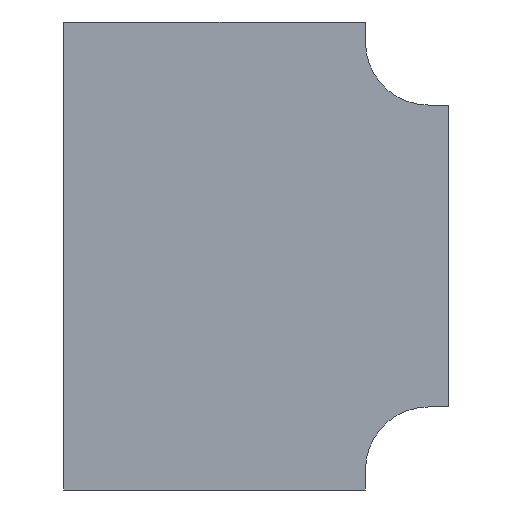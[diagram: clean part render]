
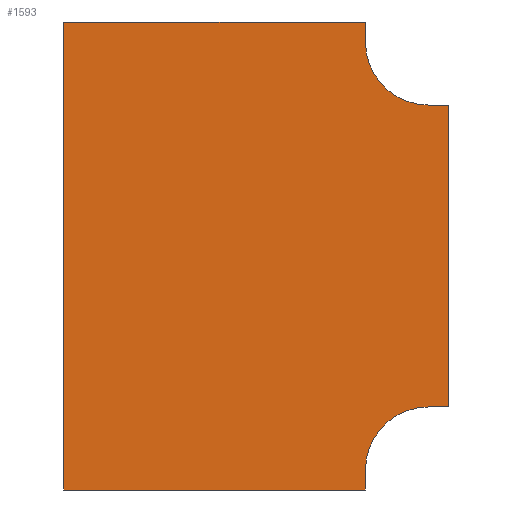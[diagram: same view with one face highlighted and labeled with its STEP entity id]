
A CAD part, front view. The second image highlights one B-rep face of the part: STEP entity #1593.
In plain terms, the highlighted planar face has unit normal (0, -1, 0).
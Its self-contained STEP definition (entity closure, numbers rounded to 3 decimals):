
#13 = VECTOR ( 'NONE', #1059, 1000. ) ;
#17 = VERTEX_POINT ( 'NONE', #621 ) ;
#41 = CARTESIAN_POINT ( 'NONE',  ( -125., 0., -890. ) ) ;
#47 = VECTOR ( 'NONE', #1630, 1000. ) ;
#56 = DIRECTION ( 'NONE',  ( 0., -1., 0. ) ) ;
#84 = EDGE_CURVE ( 'NONE', #2042, #408, #2161, .T. ) ;
#100 = LINE ( 'NONE', #1776, #987 ) ;
#167 = VECTOR ( 'NONE', #1204, 1000. ) ;
#180 = EDGE_CURVE ( 'NONE', #1074, #399, #579, .T. ) ;
#208 = DIRECTION ( 'NONE',  ( 0., 0., 1. ) ) ;
#212 = ORIENTED_EDGE ( 'NONE', *, *, #632, .F. ) ;
#220 = EDGE_CURVE ( 'NONE', #408, #1867, #1105, .T. ) ;
#230 = LINE ( 'NONE', #282, #393 ) ;
#262 = LINE ( 'NONE', #797, #2187 ) ;
#282 = CARTESIAN_POINT ( 'NONE',  ( -725., 0., -890. ) ) ;
#307 = DIRECTION ( 'NONE',  ( 0., 0., -1. ) ) ;
#311 = EDGE_CURVE ( 'NONE', #2085, #2042, #230, .T. ) ;
#393 = VECTOR ( 'NONE', #457, 1000. ) ;
#399 = VERTEX_POINT ( 'NONE', #604 ) ;
#408 = VERTEX_POINT ( 'NONE', #1688 ) ;
#417 = ORIENTED_EDGE ( 'NONE', *, *, #220, .F. ) ;
#457 = DIRECTION ( 'NONE',  ( -1., 0., 0. ) ) ;
#485 = CARTESIAN_POINT ( 'NONE',  ( 0., 0., 0. ) ) ;
#494 = CARTESIAN_POINT ( 'NONE',  ( 40., 0., -125. ) ) ;
#510 = LINE ( 'NONE', #1981, #1262 ) ;
#518 = DIRECTION ( 'NONE',  ( 0., -1., 0. ) ) ;
#561 = CARTESIAN_POINT ( 'NONE',  ( -725., 0., 40. ) ) ;
#579 = CIRCLE ( 'NONE', #2115, 125. ) ;
#604 = CARTESIAN_POINT ( 'NONE',  ( -125., 0., -850. ) ) ;
#621 = CARTESIAN_POINT ( 'NONE',  ( 40., 0., -125. ) ) ;
#623 = DIRECTION ( 'NONE',  ( 0., 0., -1. ) ) ;
#632 = EDGE_CURVE ( 'NONE', #399, #2085, #982, .T. ) ;
#636 = DIRECTION ( 'NONE',  ( 0., 0., -1. ) ) ;
#675 = ORIENTED_EDGE ( 'NONE', *, *, #311, .F. ) ;
#693 = PLANE ( 'NONE',  #997 ) ;
#696 = ORIENTED_EDGE ( 'NONE', *, *, #84, .F. ) ;
#711 = ORIENTED_EDGE ( 'NONE', *, *, #1516, .F. ) ;
#734 = EDGE_CURVE ( 'NONE', #1583, #1074, #100, .T. ) ;
#742 = CARTESIAN_POINT ( 'NONE',  ( 0., 0., -850. ) ) ;
#765 = VERTEX_POINT ( 'NONE', #1192 ) ;
#797 = CARTESIAN_POINT ( 'NONE',  ( -125., 0., 40. ) ) ;
#825 = CARTESIAN_POINT ( 'NONE',  ( 0., 0., -725. ) ) ;
#856 = CARTESIAN_POINT ( 'NONE',  ( -725., 0., -890. ) ) ;
#900 = DIRECTION ( 'NONE',  ( 0., -1., 0. ) ) ;
#926 = VERTEX_POINT ( 'NONE', #1480 ) ;
#971 = EDGE_LOOP ( 'NONE', ( #417, #696, #675, #212, #1523, #2012, #711, #1060, #2061, #1833 ) ) ;
#982 = LINE ( 'NONE', #2098, #167 ) ;
#987 = VECTOR ( 'NONE', #1552, 1000. ) ;
#992 = AXIS2_PLACEMENT_3D ( 'NONE', #1696, #56, #623 ) ;
#997 = AXIS2_PLACEMENT_3D ( 'NONE', #485, #518, #307 ) ;
#1059 = DIRECTION ( 'NONE',  ( 0., 0., 1. ) ) ;
#1060 = ORIENTED_EDGE ( 'NONE', *, *, #1139, .F. ) ;
#1074 = VERTEX_POINT ( 'NONE', #825 ) ;
#1105 = LINE ( 'NONE', #561, #47 ) ;
#1107 = CIRCLE ( 'NONE', #992, 125. ) ;
#1139 = EDGE_CURVE ( 'NONE', #926, #17, #510, .T. ) ;
#1192 = CARTESIAN_POINT ( 'NONE',  ( -125., 0., 0. ) ) ;
#1204 = DIRECTION ( 'NONE',  ( 0., 0., -1. ) ) ;
#1262 = VECTOR ( 'NONE', #2318, 1000. ) ;
#1356 = EDGE_CURVE ( 'NONE', #765, #926, #1107, .T. ) ;
#1378 = VECTOR ( 'NONE', #1799, 1000. ) ;
#1480 = CARTESIAN_POINT ( 'NONE',  ( 0., 0., -125. ) ) ;
#1516 = EDGE_CURVE ( 'NONE', #17, #1583, #2316, .T. ) ;
#1523 = ORIENTED_EDGE ( 'NONE', *, *, #180, .F. ) ;
#1552 = DIRECTION ( 'NONE',  ( -1., 0., 0. ) ) ;
#1583 = VERTEX_POINT ( 'NONE', #1989 ) ;
#1593 = ADVANCED_FACE ( 'NONE', ( #2350 ), #693, .T. ) ;
#1598 = CARTESIAN_POINT ( 'NONE',  ( -125., 0., 40. ) ) ;
#1630 = DIRECTION ( 'NONE',  ( 1., 0., 0. ) ) ;
#1642 = EDGE_CURVE ( 'NONE', #1867, #765, #262, .T. ) ;
#1688 = CARTESIAN_POINT ( 'NONE',  ( -725., 0., 40. ) ) ;
#1696 = CARTESIAN_POINT ( 'NONE',  ( 0., 0., 0. ) ) ;
#1776 = CARTESIAN_POINT ( 'NONE',  ( 0., 0., -725. ) ) ;
#1799 = DIRECTION ( 'NONE',  ( 0., 0., -1. ) ) ;
#1833 = ORIENTED_EDGE ( 'NONE', *, *, #1642, .F. ) ;
#1867 = VERTEX_POINT ( 'NONE', #1598 ) ;
#1981 = CARTESIAN_POINT ( 'NONE',  ( 0., 0., -125. ) ) ;
#1989 = CARTESIAN_POINT ( 'NONE',  ( 40., 0., -725. ) ) ;
#2012 = ORIENTED_EDGE ( 'NONE', *, *, #734, .F. ) ;
#2042 = VERTEX_POINT ( 'NONE', #2257 ) ;
#2061 = ORIENTED_EDGE ( 'NONE', *, *, #1356, .F. ) ;
#2085 = VERTEX_POINT ( 'NONE', #41 ) ;
#2098 = CARTESIAN_POINT ( 'NONE',  ( -125., 0., -890. ) ) ;
#2115 = AXIS2_PLACEMENT_3D ( 'NONE', #742, #900, #208 ) ;
#2161 = LINE ( 'NONE', #856, #13 ) ;
#2187 = VECTOR ( 'NONE', #636, 1000. ) ;
#2257 = CARTESIAN_POINT ( 'NONE',  ( -725., 0., -890. ) ) ;
#2316 = LINE ( 'NONE', #494, #1378 ) ;
#2318 = DIRECTION ( 'NONE',  ( 1., 0., 0. ) ) ;
#2350 = FACE_OUTER_BOUND ( 'NONE', #971, .T. ) ;
